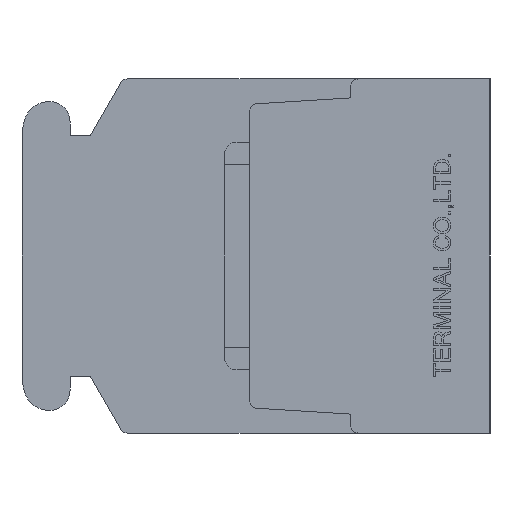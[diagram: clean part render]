
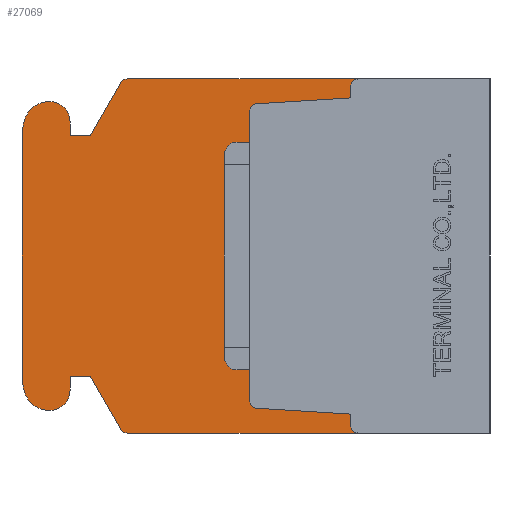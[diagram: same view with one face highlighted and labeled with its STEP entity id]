
A CAD part, left-side view. The second image highlights one B-rep face of the part: STEP entity #27069.
In plain terms, the highlighted planar face has unit normal (-1, 0, 0).
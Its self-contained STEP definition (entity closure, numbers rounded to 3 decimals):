
#533=CIRCLE('',#27510,0.3);
#534=CIRCLE('',#27514,0.3);
#535=CIRCLE('',#27516,0.3);
#536=CIRCLE('',#27520,0.3);
#1060=CIRCLE('',#29077,0.3);
#1061=CIRCLE('',#29078,0.8);
#1062=CIRCLE('',#29079,1.);
#1063=CIRCLE('',#29080,2.);
#1064=CIRCLE('',#29081,2.);
#1065=CIRCLE('',#29082,1.);
#1066=CIRCLE('',#29083,0.8);
#1067=CIRCLE('',#29084,0.3);
#1472=VERTEX_POINT('',#35357);
#1473=VERTEX_POINT('',#35358);
#1826=VERTEX_POINT('',#36879);
#1827=VERTEX_POINT('',#36883);
#1828=VERTEX_POINT('',#36887);
#1829=VERTEX_POINT('',#36891);
#1830=VERTEX_POINT('',#36895);
#1831=VERTEX_POINT('',#36896);
#1832=VERTEX_POINT('',#36901);
#1833=VERTEX_POINT('',#36905);
#3472=VERTEX_POINT('',#41726);
#3491=VERTEX_POINT('',#41801);
#3791=VERTEX_POINT('',#42853);
#3792=VERTEX_POINT('',#42855);
#3793=VERTEX_POINT('',#42857);
#3794=VERTEX_POINT('',#42859);
#3795=VERTEX_POINT('',#42861);
#3796=VERTEX_POINT('',#42863);
#3797=VERTEX_POINT('',#42865);
#3798=VERTEX_POINT('',#42867);
#3799=VERTEX_POINT('',#42869);
#3800=VERTEX_POINT('',#42871);
#3801=VERTEX_POINT('',#42873);
#3802=VERTEX_POINT('',#42875);
#3803=VERTEX_POINT('',#42877);
#3804=VERTEX_POINT('',#42879);
#3805=VERTEX_POINT('',#42881);
#3806=VERTEX_POINT('',#42883);
#4241=VECTOR('',#29377,1.);
#4650=VECTOR('',#29933,1.);
#4652=VECTOR('',#29936,1.);
#4657=VECTOR('',#29950,1.);
#4659=VECTOR('',#29953,1.);
#6295=VECTOR('',#33557,1.);
#6324=VECTOR('',#33628,1.);
#6731=VECTOR('',#34444,1.);
#6732=VECTOR('',#34445,1.);
#6733=VECTOR('',#34446,1.);
#6734=VECTOR('',#34449,1.);
#6735=VECTOR('',#34454,1.);
#6736=VECTOR('',#34459,1.);
#6737=VECTOR('',#34462,1.);
#6738=VECTOR('',#34463,1.);
#6739=VECTOR('',#34464,1.);
#7240=LINE('',#35356,#4241);
#7649=LINE('',#36882,#4650);
#7651=LINE('',#36886,#4652);
#7656=LINE('',#36900,#4657);
#7658=LINE('',#36904,#4659);
#9294=LINE('',#41727,#6295);
#9323=LINE('',#41800,#6324);
#9730=LINE('',#42854,#6731);
#9731=LINE('',#42856,#6732);
#9732=LINE('',#42858,#6733);
#9733=LINE('',#42862,#6734);
#9734=LINE('',#42868,#6735);
#9735=LINE('',#42874,#6736);
#9736=LINE('',#42878,#6737);
#9737=LINE('',#42880,#6738);
#9738=LINE('',#42882,#6739);
#10239=EDGE_CURVE('',#1472,#1473,#7240,.T.);
#10757=EDGE_CURVE('',#1826,#1472,#533,.T.);
#10759=EDGE_CURVE('',#1827,#1826,#7649,.T.);
#10761=EDGE_CURVE('',#1828,#1827,#7651,.T.);
#10763=EDGE_CURVE('',#1829,#1828,#534,.T.);
#10765=EDGE_CURVE('',#1830,#1831,#535,.T.);
#10768=EDGE_CURVE('',#1832,#1830,#7656,.T.);
#10770=EDGE_CURVE('',#1833,#1832,#7658,.T.);
#10772=EDGE_CURVE('',#1473,#1833,#536,.T.);
#13071=EDGE_CURVE('',#3472,#1831,#9294,.T.);
#13108=EDGE_CURVE('',#1829,#3491,#9323,.T.);
#13709=EDGE_CURVE('',#3791,#3472,#1060,.T.);
#13710=EDGE_CURVE('',#3792,#3791,#9730,.T.);
#13711=EDGE_CURVE('',#3793,#3792,#9731,.T.);
#13712=EDGE_CURVE('',#3794,#3793,#9732,.T.);
#13713=EDGE_CURVE('',#3795,#3794,#1061,.T.);
#13714=EDGE_CURVE('',#3796,#3795,#9733,.T.);
#13715=EDGE_CURVE('',#3797,#3796,#1062,.T.);
#13716=EDGE_CURVE('',#3798,#3797,#1063,.T.);
#13717=EDGE_CURVE('',#3799,#3798,#9734,.T.);
#13718=EDGE_CURVE('',#3800,#3799,#1064,.T.);
#13719=EDGE_CURVE('',#3801,#3800,#1065,.T.);
#13720=EDGE_CURVE('',#3802,#3801,#9735,.T.);
#13721=EDGE_CURVE('',#3803,#3802,#1066,.T.);
#13722=EDGE_CURVE('',#3804,#3803,#9736,.T.);
#13723=EDGE_CURVE('',#3805,#3804,#9737,.T.);
#13724=EDGE_CURVE('',#3806,#3805,#9738,.T.);
#13725=EDGE_CURVE('',#3491,#3806,#1067,.T.);
#21260=ORIENTED_EDGE('',*,*,#10765,.T.);
#21261=ORIENTED_EDGE('',*,*,#13071,.F.);
#21262=ORIENTED_EDGE('',*,*,#13709,.F.);
#21263=ORIENTED_EDGE('',*,*,#13710,.F.);
#21264=ORIENTED_EDGE('',*,*,#13711,.F.);
#21265=ORIENTED_EDGE('',*,*,#13712,.F.);
#21266=ORIENTED_EDGE('',*,*,#13713,.F.);
#21267=ORIENTED_EDGE('',*,*,#13714,.F.);
#21268=ORIENTED_EDGE('',*,*,#13715,.F.);
#21269=ORIENTED_EDGE('',*,*,#13716,.F.);
#21270=ORIENTED_EDGE('',*,*,#13717,.F.);
#21271=ORIENTED_EDGE('',*,*,#13718,.F.);
#21272=ORIENTED_EDGE('',*,*,#13719,.F.);
#21273=ORIENTED_EDGE('',*,*,#13720,.F.);
#21274=ORIENTED_EDGE('',*,*,#13721,.F.);
#21275=ORIENTED_EDGE('',*,*,#13722,.F.);
#21276=ORIENTED_EDGE('',*,*,#13723,.F.);
#21277=ORIENTED_EDGE('',*,*,#13724,.F.);
#21278=ORIENTED_EDGE('',*,*,#13725,.F.);
#21279=ORIENTED_EDGE('',*,*,#13108,.F.);
#21280=ORIENTED_EDGE('',*,*,#10763,.T.);
#21281=ORIENTED_EDGE('',*,*,#10761,.T.);
#21282=ORIENTED_EDGE('',*,*,#10759,.T.);
#21283=ORIENTED_EDGE('',*,*,#10757,.T.);
#21284=ORIENTED_EDGE('',*,*,#10239,.T.);
#21285=ORIENTED_EDGE('',*,*,#10772,.T.);
#21286=ORIENTED_EDGE('',*,*,#10770,.T.);
#21287=ORIENTED_EDGE('',*,*,#10768,.T.);
#23949=EDGE_LOOP('',(#21260,#21261,#21262,#21263,#21264,#21265,#21266,#21267,
#21268,#21269,#21270,#21271,#21272,#21273,#21274,#21275,#21276,#21277,#21278,
#21279,#21280,#21281,#21282,#21283,#21284,#21285,#21286,#21287));
#25557=FACE_BOUND('',#23949,.T.);
#27069=ADVANCED_FACE('',(#25557),#45547,.F.);
#27510=AXIS2_PLACEMENT_3D('',#36878,#29929,#29930);
#27514=AXIS2_PLACEMENT_3D('',#36890,#29940,#29941);
#27516=AXIS2_PLACEMENT_3D('',#36894,#29945,#29946);
#27520=AXIS2_PLACEMENT_3D('',#36908,#29957,#29958);
#29076=AXIS2_PLACEMENT_3D('',#42851,#34441,$);
#29077=AXIS2_PLACEMENT_3D('',#42852,#34442,#34443);
#29078=AXIS2_PLACEMENT_3D('',#42860,#34447,#34448);
#29079=AXIS2_PLACEMENT_3D('',#42864,#34450,#34451);
#29080=AXIS2_PLACEMENT_3D('',#42866,#34452,#34453);
#29081=AXIS2_PLACEMENT_3D('',#42870,#34455,#34456);
#29082=AXIS2_PLACEMENT_3D('',#42872,#34457,#34458);
#29083=AXIS2_PLACEMENT_3D('',#42876,#34460,#34461);
#29084=AXIS2_PLACEMENT_3D('',#42884,#34465,#34466);
#29377=DIRECTION('',(0.,0.,1.));
#29929=DIRECTION('',(1.,0.,0.));
#29930=DIRECTION('',(0.,0.,-0.3));
#29933=DIRECTION('',(0.,0.998,0.062));
#29936=DIRECTION('',(0.,0.,1.));
#29940=DIRECTION('',(1.,0.,0.));
#29941=DIRECTION('',(0.,0.,-0.3));
#29945=DIRECTION('',(1.,0.,0.));
#29946=DIRECTION('',(0.,0.,-0.3));
#29950=DIRECTION('',(0.,0.,1.));
#29953=DIRECTION('',(0.,-0.998,0.062));
#29957=DIRECTION('',(1.,0.,0.));
#29958=DIRECTION('',(0.,0.,-0.3));
#33557=DIRECTION('',(0.,-1.,0.));
#33628=DIRECTION('',(0.,1.,0.));
#34441=DIRECTION('',(1.,0.,0.));
#34442=DIRECTION('',(1.,0.,0.));
#34443=DIRECTION('',(0.,0.,-0.3));
#34444=DIRECTION('',(0.,-0.5,0.866));
#34445=DIRECTION('',(0.,-1.,0.));
#34446=DIRECTION('',(0.,0.,-1.));
#34447=DIRECTION('',(1.,0.,0.));
#34448=DIRECTION('',(0.,0.,-0.8));
#34449=DIRECTION('',(0.,-1.,0.));
#34450=DIRECTION('',(1.,0.,0.));
#34451=DIRECTION('',(0.,0.,-1.));
#34452=DIRECTION('',(1.,0.,0.));
#34453=DIRECTION('',(0.,0.,-2.));
#34454=DIRECTION('',(0.,0.,1.));
#34455=DIRECTION('',(1.,0.,0.));
#34456=DIRECTION('',(0.,0.,-2.));
#34457=DIRECTION('',(1.,0.,0.));
#34458=DIRECTION('',(0.,0.,-1.));
#34459=DIRECTION('',(0.,1.,0.));
#34460=DIRECTION('',(1.,0.,0.));
#34461=DIRECTION('',(0.,0.,-0.8));
#34462=DIRECTION('',(0.,0.,-1.));
#34463=DIRECTION('',(0.,1.,0.));
#34464=DIRECTION('',(0.,0.5,0.866));
#34465=DIRECTION('',(1.,0.,0.));
#34466=DIRECTION('',(0.,0.,-0.3));
#35356=CARTESIAN_POINT('',(8.15,9.5,0.));
#35357=CARTESIAN_POINT('',(8.15,9.5,-5.718));
#35358=CARTESIAN_POINT('',(8.15,9.5,5.718));
#36878=CARTESIAN_POINT('',(8.15,9.2,-5.718));
#36879=CARTESIAN_POINT('',(8.15,9.219,-6.018));
#36882=CARTESIAN_POINT('',(8.15,8.522,-6.061));
#36883=CARTESIAN_POINT('',(8.15,5.5,-6.25));
#36886=CARTESIAN_POINT('',(8.15,5.5,-3.237));
#36887=CARTESIAN_POINT('',(8.15,5.5,-6.7));
#36890=CARTESIAN_POINT('',(8.15,5.2,-6.7));
#36891=CARTESIAN_POINT('',(8.15,5.2,-7.));
#36894=CARTESIAN_POINT('',(8.15,5.2,6.7));
#36895=CARTESIAN_POINT('',(8.15,5.5,6.7));
#36896=CARTESIAN_POINT('',(8.15,5.2,7.));
#36900=CARTESIAN_POINT('',(8.15,5.5,3.238));
#36901=CARTESIAN_POINT('',(8.15,5.5,6.25));
#36904=CARTESIAN_POINT('',(8.15,8.522,6.061));
#36905=CARTESIAN_POINT('',(8.15,9.219,6.018));
#36908=CARTESIAN_POINT('',(8.15,9.2,5.718));
#41726=CARTESIAN_POINT('',(8.15,14.327,7.));
#41727=CARTESIAN_POINT('',(8.15,14.327,7.));
#41800=CARTESIAN_POINT('',(8.15,0.,-7.));
#41801=CARTESIAN_POINT('',(8.15,14.327,-7.));
#42851=CARTESIAN_POINT('',(8.15,9.311,0.));
#42852=CARTESIAN_POINT('',(8.15,14.327,6.7));
#42853=CARTESIAN_POINT('',(8.15,14.587,6.85));
#42854=CARTESIAN_POINT('',(8.15,15.8,4.75));
#42855=CARTESIAN_POINT('',(8.15,15.8,4.75));
#42856=CARTESIAN_POINT('',(8.15,16.6,4.75));
#42857=CARTESIAN_POINT('',(8.15,16.6,4.75));
#42858=CARTESIAN_POINT('',(8.15,16.6,5.3));
#42859=CARTESIAN_POINT('',(8.15,16.6,5.3));
#42860=CARTESIAN_POINT('',(8.15,17.4,5.3));
#42861=CARTESIAN_POINT('',(8.15,17.4,6.1));
#42862=CARTESIAN_POINT('',(8.15,17.437,6.1));
#42863=CARTESIAN_POINT('',(8.15,17.437,6.1));
#42864=CARTESIAN_POINT('',(8.15,17.437,5.1));
#42865=CARTESIAN_POINT('',(8.15,18.373,5.45));
#42866=CARTESIAN_POINT('',(8.15,16.5,4.75));
#42867=CARTESIAN_POINT('',(8.15,18.5,4.75));
#42868=CARTESIAN_POINT('',(8.15,18.5,-4.75));
#42869=CARTESIAN_POINT('',(8.15,18.5,-4.75));
#42870=CARTESIAN_POINT('',(8.15,16.5,-4.75));
#42871=CARTESIAN_POINT('',(8.15,18.373,-5.45));
#42872=CARTESIAN_POINT('',(8.15,17.437,-5.1));
#42873=CARTESIAN_POINT('',(8.15,17.437,-6.1));
#42874=CARTESIAN_POINT('',(8.15,17.4,-6.1));
#42875=CARTESIAN_POINT('',(8.15,17.4,-6.1));
#42876=CARTESIAN_POINT('',(8.15,17.4,-5.3));
#42877=CARTESIAN_POINT('',(8.15,16.6,-5.3));
#42878=CARTESIAN_POINT('',(8.15,16.6,-4.75));
#42879=CARTESIAN_POINT('',(8.15,16.6,-4.75));
#42880=CARTESIAN_POINT('',(8.15,15.8,-4.75));
#42881=CARTESIAN_POINT('',(8.15,15.8,-4.75));
#42882=CARTESIAN_POINT('',(8.15,14.587,-6.85));
#42883=CARTESIAN_POINT('',(8.15,14.587,-6.85));
#42884=CARTESIAN_POINT('',(8.15,14.327,-6.7));
#45547=PLANE('',#29076);
